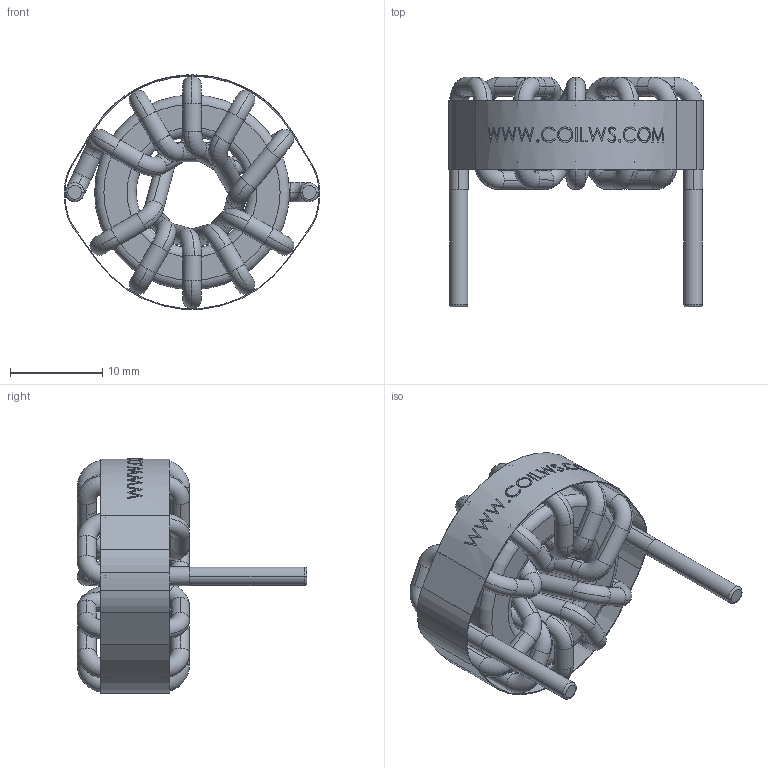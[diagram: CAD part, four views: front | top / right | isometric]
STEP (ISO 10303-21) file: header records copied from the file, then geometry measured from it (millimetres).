
FILE_DESCRIPTION (( 'STEP AP214' ), '1' );
FILE_NAME ('HF203-3R2M-30AH REV.STEP', '2022-01-13T08:53:37', ( '' ), ( '' ), 'SwSTEP 2.0', 'SolidWorks 2015', '' );
FILE_SCHEMA (( 'AUTOMOTIVE_DESIGN' ));
Length unit declared in the file: millimetre
Products named in the file (4): HF203-3R2M-30AH REV; WRAPPER; CORE; COIL
Assembly tree (3 placements, depth 2):
  HF203-3R2M-30AH REV
    CORE
    COIL
    WRAPPER
Bounding box: 27.65 x 24.86 x 25.37 mm (x, y, z)
Volume: 2899 mm3; surface area: 4776.3 mm2
Topology: 10 solids, 10 shells, 400 faces, 1076 edges, 712 vertices
Faces by surface type: cylinder 138, bspline 103, torus 96, plane 63
Entity records: 20258 total; most frequent: CARTESIAN_POINT 8732, ORIENTED_EDGE 2152, DIRECTION 1920, EDGE_CURVE 1076, AXIS2_PLACEMENT_3D 877, VERTEX_POINT 712, CIRCLE 574, EDGE_LOOP 420
